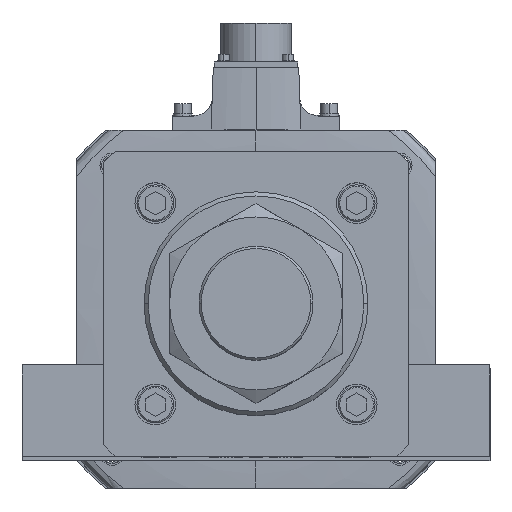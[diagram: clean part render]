
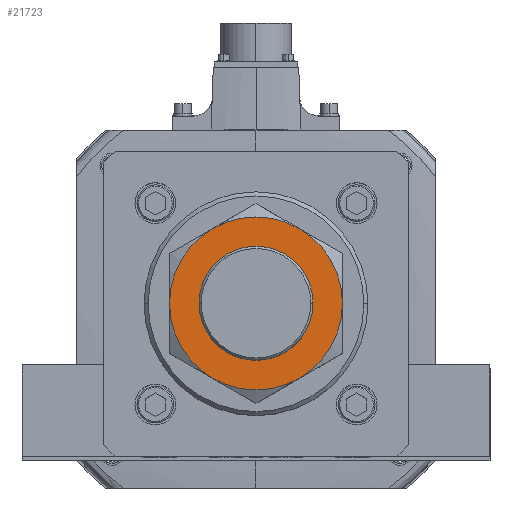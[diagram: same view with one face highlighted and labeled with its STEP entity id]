
A CAD part, top view. The second image highlights one B-rep face of the part: STEP entity #21723.
In plain terms, the highlighted planar face has unit normal (0, 0, 1).
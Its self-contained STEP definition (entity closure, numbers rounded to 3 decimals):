
#919 = DIRECTION ( 'NONE',  ( 0., 0., -1. ) ) ;
#1326 = CARTESIAN_POINT ( 'NONE',  ( -42.5, 0., 34. ) ) ;
#1630 = CIRCLE ( 'NONE', #52079, 42.5 ) ;
#2302 = ORIENTED_EDGE ( 'NONE', *, *, #6701, .F. ) ;
#2719 = ORIENTED_EDGE ( 'NONE', *, *, #43503, .F. ) ;
#4504 = EDGE_CURVE ( 'NONE', #26817, #44113, #53508, .T. ) ;
#4626 = PLANE ( 'NONE',  #47660 ) ;
#5239 = EDGE_LOOP ( 'NONE', ( #2719, #33314, #25072, #2302, #27178, #48722 ) ) ;
#5499 = DIRECTION ( 'NONE',  ( 0., 0., -1. ) ) ;
#5653 = CIRCLE ( 'NONE', #16611, 42.5 ) ;
#5959 = DIRECTION ( 'NONE',  ( 1., 0., 0. ) ) ;
#6585 = CIRCLE ( 'NONE', #27433, 42.5 ) ;
#6701 = EDGE_CURVE ( 'NONE', #16428, #26817, #1630, .T. ) ;
#7168 = DIRECTION ( 'NONE',  ( 1., 0., 0. ) ) ;
#7203 = EDGE_CURVE ( 'NONE', #21334, #39952, #47231, .T. ) ;
#8569 = FACE_OUTER_BOUND ( 'NONE', #5239, .T. ) ;
#8819 = CARTESIAN_POINT ( 'NONE',  ( 0., 0., 34. ) ) ;
#8930 = DIRECTION ( 'NONE',  ( 1., 0., 0. ) ) ;
#10050 = VERTEX_POINT ( 'NONE', #27376 ) ;
#11574 = EDGE_CURVE ( 'NONE', #24719, #16428, #44081, .T. ) ;
#12065 = DIRECTION ( 'NONE',  ( 1., 0., 0. ) ) ;
#16110 = DIRECTION ( 'NONE',  ( 0., 0., 1. ) ) ;
#16428 = VERTEX_POINT ( 'NONE', #1326 ) ;
#16543 = DIRECTION ( 'NONE',  ( -1., 0., 0. ) ) ;
#16611 = AXIS2_PLACEMENT_3D ( 'NONE', #37174, #41302, #7168 ) ;
#16950 = CIRCLE ( 'NONE', #39795, 42.5 ) ;
#20244 = ORIENTED_EDGE ( 'NONE', *, *, #7203, .F. ) ;
#20298 = CARTESIAN_POINT ( 'NONE',  ( 0., 0., 34. ) ) ;
#20310 = CARTESIAN_POINT ( 'NONE',  ( -21.25, -36.806, 34. ) ) ;
#20496 = DIRECTION ( 'NONE',  ( 0., 0., 1. ) ) ;
#21091 = VERTEX_POINT ( 'NONE', #37713 ) ;
#21334 = VERTEX_POINT ( 'NONE', #30534 ) ;
#21723 = ADVANCED_FACE ( 'NONE', ( #8569, #43422 ), #4626, .T. ) ;
#22550 = CARTESIAN_POINT ( 'NONE',  ( 0., 0., 34. ) ) ;
#23484 = DIRECTION ( 'NONE',  ( 1., 0., 0. ) ) ;
#24719 = VERTEX_POINT ( 'NONE', #20310 ) ;
#24979 = AXIS2_PLACEMENT_3D ( 'NONE', #50500, #20496, #23484 ) ;
#25072 = ORIENTED_EDGE ( 'NONE', *, *, #4504, .F. ) ;
#26817 = VERTEX_POINT ( 'NONE', #52974 ) ;
#26921 = AXIS2_PLACEMENT_3D ( 'NONE', #53986, #16110, #32428 ) ;
#27178 = ORIENTED_EDGE ( 'NONE', *, *, #11574, .F. ) ;
#27376 = CARTESIAN_POINT ( 'NONE',  ( 21.25, -36.806, 34. ) ) ;
#27433 = AXIS2_PLACEMENT_3D ( 'NONE', #22550, #5499, #35511 ) ;
#27675 = CARTESIAN_POINT ( 'NONE',  ( 0., 0., 34. ) ) ;
#30534 = CARTESIAN_POINT ( 'NONE',  ( -28., 0., 34. ) ) ;
#31524 = CIRCLE ( 'NONE', #24979, 28. ) ;
#31882 = AXIS2_PLACEMENT_3D ( 'NONE', #8819, #919, #38826 ) ;
#32022 = EDGE_CURVE ( 'NONE', #10050, #24719, #6585, .T. ) ;
#32428 = DIRECTION ( 'NONE',  ( 1., 0., 0. ) ) ;
#33314 = ORIENTED_EDGE ( 'NONE', *, *, #38941, .F. ) ;
#34105 = EDGE_LOOP ( 'NONE', ( #20244, #45131 ) ) ;
#35511 = DIRECTION ( 'NONE',  ( 1., 0., 0. ) ) ;
#37174 = CARTESIAN_POINT ( 'NONE',  ( 0., 0., 34. ) ) ;
#37713 = CARTESIAN_POINT ( 'NONE',  ( 42.5, 0., 34. ) ) ;
#37764 = DIRECTION ( 'NONE',  ( 0., 0., -1. ) ) ;
#38398 = CARTESIAN_POINT ( 'NONE',  ( 0., 0., 34. ) ) ;
#38826 = DIRECTION ( 'NONE',  ( 1., 0., 0. ) ) ;
#38941 = EDGE_CURVE ( 'NONE', #44113, #21091, #5653, .T. ) ;
#39795 = AXIS2_PLACEMENT_3D ( 'NONE', #55391, #37764, #12065 ) ;
#39952 = VERTEX_POINT ( 'NONE', #52401 ) ;
#41302 = DIRECTION ( 'NONE',  ( 0., 0., -1. ) ) ;
#42215 = DIRECTION ( 'NONE',  ( 0., 0., -1. ) ) ;
#42299 = CARTESIAN_POINT ( 'NONE',  ( 21.25, 36.806, 34. ) ) ;
#43422 = FACE_BOUND ( 'NONE', #34105, .T. ) ;
#43503 = EDGE_CURVE ( 'NONE', #21091, #10050, #16950, .T. ) ;
#44081 = CIRCLE ( 'NONE', #51506, 42.5 ) ;
#44113 = VERTEX_POINT ( 'NONE', #42299 ) ;
#44396 = DIRECTION ( 'NONE',  ( 0., 0., -1. ) ) ;
#45131 = ORIENTED_EDGE ( 'NONE', *, *, #51640, .F. ) ;
#47231 = CIRCLE ( 'NONE', #26921, 28. ) ;
#47660 = AXIS2_PLACEMENT_3D ( 'NONE', #38398, #51318, #8930 ) ;
#48722 = ORIENTED_EDGE ( 'NONE', *, *, #32022, .F. ) ;
#50500 = CARTESIAN_POINT ( 'NONE',  ( 0., 0., 34. ) ) ;
#51318 = DIRECTION ( 'NONE',  ( 0., 0., 1. ) ) ;
#51506 = AXIS2_PLACEMENT_3D ( 'NONE', #27675, #44396, #5959 ) ;
#51640 = EDGE_CURVE ( 'NONE', #39952, #21334, #31524, .T. ) ;
#52079 = AXIS2_PLACEMENT_3D ( 'NONE', #20298, #42215, #16543 ) ;
#52401 = CARTESIAN_POINT ( 'NONE',  ( 28., 0., 34. ) ) ;
#52974 = CARTESIAN_POINT ( 'NONE',  ( -21.25, 36.806, 34. ) ) ;
#53508 = CIRCLE ( 'NONE', #31882, 42.5 ) ;
#53986 = CARTESIAN_POINT ( 'NONE',  ( 0., 0., 34. ) ) ;
#55391 = CARTESIAN_POINT ( 'NONE',  ( 0., 0., 34. ) ) ;
